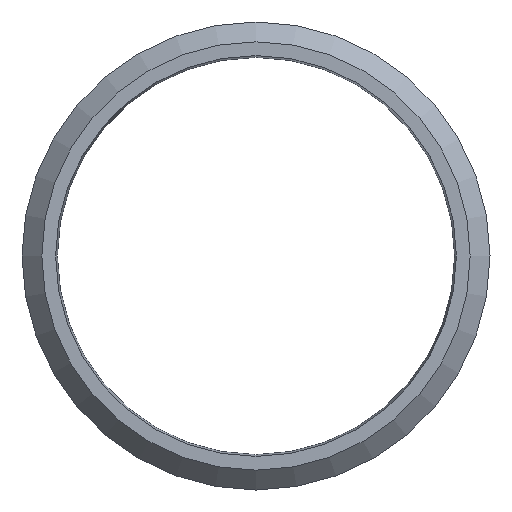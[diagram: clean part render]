
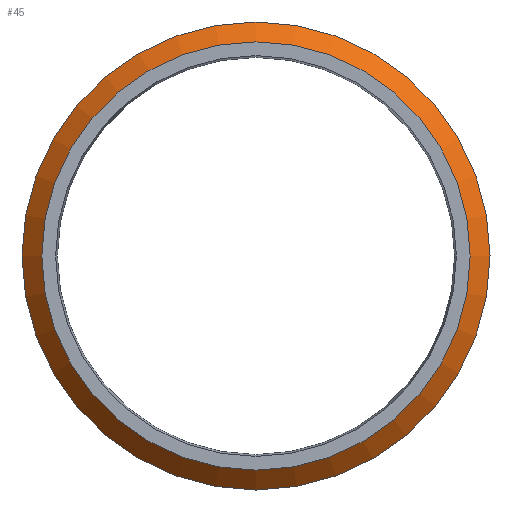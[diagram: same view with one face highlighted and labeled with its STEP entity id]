
A CAD part, left-side view. The second image highlights one B-rep face of the part: STEP entity #45.
In plain terms, the highlighted conical face has half-angle 45 degrees and reference radius 15.8 mm.
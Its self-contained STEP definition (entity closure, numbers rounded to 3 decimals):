
#45 = ADVANCED_FACE( '', ( #98, #99 ), #100, .T. );
#98 = FACE_BOUND( '', #165, .T. );
#99 = FACE_OUTER_BOUND( '', #166, .T. );
#100 = CONICAL_SURFACE( '', #167, 15.8, 0.785 );
#165 = EDGE_LOOP( '', ( #232 ) );
#166 = EDGE_LOOP( '', ( #233 ) );
#167 = AXIS2_PLACEMENT_3D( '', #234, #235, #236 );
#232 = ORIENTED_EDGE( '', *, *, #313, .T. );
#233 = ORIENTED_EDGE( '', *, *, #314, .T. );
#234 = CARTESIAN_POINT( '', ( -5.625, -9.633, 0. ) );
#235 = DIRECTION( '', ( 1., 0., 0. ) );
#236 = DIRECTION( '', ( 0., -1., 0. ) );
#313 = EDGE_CURVE( '', #349, #349, #350, .T. );
#314 = EDGE_CURVE( '', #351, #351, #352, .T. );
#349 = VERTEX_POINT( '', #394 );
#350 = CIRCLE( '', #395, 15.1 );
#351 = VERTEX_POINT( '', #396 );
#352 = CIRCLE( '', #397, 16.5 );
#394 = CARTESIAN_POINT( '', ( -6.325, -24.733, 0. ) );
#395 = AXIS2_PLACEMENT_3D( '', #441, #442, #443 );
#396 = CARTESIAN_POINT( '', ( -4.925, -26.133, 0. ) );
#397 = AXIS2_PLACEMENT_3D( '', #444, #445, #446 );
#441 = CARTESIAN_POINT( '', ( -6.325, -9.633, 0. ) );
#442 = DIRECTION( '', ( 1., 0., 0. ) );
#443 = DIRECTION( '', ( 0., -1., 0. ) );
#444 = CARTESIAN_POINT( '', ( -4.925, -9.633, 0. ) );
#445 = DIRECTION( '', ( -1., 0., 0. ) );
#446 = DIRECTION( '', ( 0., -1., 0. ) );
